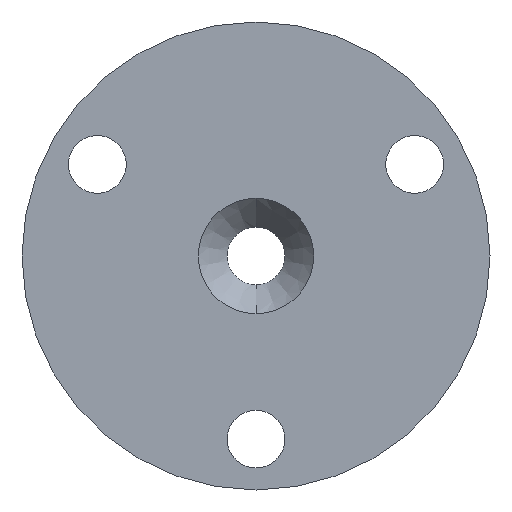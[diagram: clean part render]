
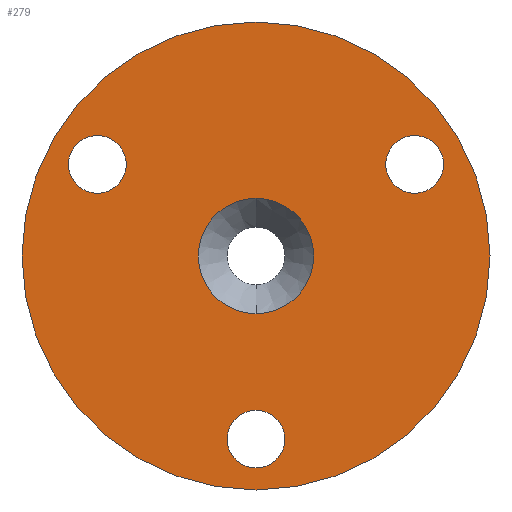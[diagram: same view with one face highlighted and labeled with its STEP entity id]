
A CAD part, front view. The second image highlights one B-rep face of the part: STEP entity #279.
In plain terms, the highlighted planar face has unit normal (0, -1, 0).
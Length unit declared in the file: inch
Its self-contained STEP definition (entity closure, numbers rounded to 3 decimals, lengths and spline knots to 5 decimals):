
#10 = EDGE_CURVE ( 'NONE', #251, #199, #535, .T. ) ;
#11 = EDGE_LOOP ( 'NONE', ( #274, #467 ) ) ;
#20 = DIRECTION ( 'NONE',  ( 0., 0., -1. ) ) ;
#26 = FACE_BOUND ( 'NONE', #11, .T. ) ;
#28 = PLANE ( 'NONE',  #480 ) ;
#36 = DIRECTION ( 'NONE',  ( 0., 0., 1. ) ) ;
#41 = CIRCLE ( 'NONE', #497, 0.133 ) ;
#62 = EDGE_CURVE ( 'NONE', #104, #236, #472, .T. ) ;
#66 = CIRCLE ( 'NONE', #360, 0.133 ) ;
#69 = CIRCLE ( 'NONE', #145, 0.2655 ) ;
#72 = CARTESIAN_POINT ( 'NONE',  ( 0.73071, -0.125, 0.28887 ) ) ;
#73 = EDGE_LOOP ( 'NONE', ( #340, #424 ) ) ;
#79 = EDGE_CURVE ( 'NONE', #309, #557, #461, .T. ) ;
#99 = CARTESIAN_POINT ( 'NONE',  ( -0.73071, -0.125, 0.42187 ) ) ;
#101 = EDGE_LOOP ( 'NONE', ( #495, #365 ) ) ;
#104 = VERTEX_POINT ( 'NONE', #271 ) ;
#113 = CARTESIAN_POINT ( 'NONE',  ( 0., -0.125, 0. ) ) ;
#125 = DIRECTION ( 'NONE',  ( 0., -1., 0. ) ) ;
#135 = EDGE_LOOP ( 'NONE', ( #558, #314 ) ) ;
#143 = DIRECTION ( 'NONE',  ( 0., 0., 1. ) ) ;
#145 = AXIS2_PLACEMENT_3D ( 'NONE', #567, #284, #20 ) ;
#150 = VERTEX_POINT ( 'NONE', #362 ) ;
#156 = CARTESIAN_POINT ( 'NONE',  ( 0.73071, -0.125, 0.42187 ) ) ;
#160 = CARTESIAN_POINT ( 'NONE',  ( 0., -0.125, -0.71075 ) ) ;
#161 = FACE_BOUND ( 'NONE', #135, .T. ) ;
#163 = DIRECTION ( 'NONE',  ( 0., 0., -1. ) ) ;
#169 = EDGE_CURVE ( 'NONE', #233, #333, #304, .T. ) ;
#171 = CARTESIAN_POINT ( 'NONE',  ( 0., -0.125, 0. ) ) ;
#177 = AXIS2_PLACEMENT_3D ( 'NONE', #156, #476, #202 ) ;
#186 = EDGE_CURVE ( 'NONE', #389, #150, #69, .T. ) ;
#187 = CARTESIAN_POINT ( 'NONE',  ( 0., -0.125, 0. ) ) ;
#199 = VERTEX_POINT ( 'NONE', #160 ) ;
#202 = DIRECTION ( 'NONE',  ( 0., 0., 1. ) ) ;
#212 = DIRECTION ( 'NONE',  ( 0., 1., 0. ) ) ;
#213 = ORIENTED_EDGE ( 'NONE', *, *, #226, .F. ) ;
#226 = EDGE_CURVE ( 'NONE', #236, #104, #540, .T. ) ;
#228 = DIRECTION ( 'NONE',  ( 0., -1., 0. ) ) ;
#231 = DIRECTION ( 'NONE',  ( 0., 0., -1. ) ) ;
#232 = AXIS2_PLACEMENT_3D ( 'NONE', #113, #430, #163 ) ;
#233 = VERTEX_POINT ( 'NONE', #72 ) ;
#236 = VERTEX_POINT ( 'NONE', #481 ) ;
#246 = FACE_BOUND ( 'NONE', #101, .T. ) ;
#248 = CARTESIAN_POINT ( 'NONE',  ( 0., -0.125, -0.97675 ) ) ;
#250 = CARTESIAN_POINT ( 'NONE',  ( -0.73071, -0.125, 0.42187 ) ) ;
#251 = VERTEX_POINT ( 'NONE', #248 ) ;
#255 = EDGE_CURVE ( 'NONE', #557, #309, #275, .T. ) ;
#271 = CARTESIAN_POINT ( 'NONE',  ( 0., -0.125, 1.07813 ) ) ;
#274 = ORIENTED_EDGE ( 'NONE', *, *, #255, .F. ) ;
#275 = CIRCLE ( 'NONE', #376, 0.133 ) ;
#279 = ADVANCED_FACE ( 'NONE', ( #363, #161, #26, #499, #246 ), #28, .F. ) ;
#284 = DIRECTION ( 'NONE',  ( 0., -1., 0. ) ) ;
#293 = DIRECTION ( 'NONE',  ( 0., 0., 1. ) ) ;
#296 = CARTESIAN_POINT ( 'NONE',  ( -0.73071, -0.125, 0.28887 ) ) ;
#297 = DIRECTION ( 'NONE',  ( 0., -1., 0. ) ) ;
#304 = CIRCLE ( 'NONE', #177, 0.133 ) ;
#308 = EDGE_CURVE ( 'NONE', #150, #389, #482, .T. ) ;
#309 = VERTEX_POINT ( 'NONE', #296 ) ;
#314 = ORIENTED_EDGE ( 'NONE', *, *, #169, .F. ) ;
#333 = VERTEX_POINT ( 'NONE', #373 ) ;
#340 = ORIENTED_EDGE ( 'NONE', *, *, #577, .F. ) ;
#341 = ORIENTED_EDGE ( 'NONE', *, *, #62, .F. ) ;
#358 = AXIS2_PLACEMENT_3D ( 'NONE', #502, #228, #548 ) ;
#360 = AXIS2_PLACEMENT_3D ( 'NONE', #581, #297, #36 ) ;
#362 = CARTESIAN_POINT ( 'NONE',  ( 0., -0.125, 0.2655 ) ) ;
#363 = FACE_OUTER_BOUND ( 'NONE', #428, .T. ) ;
#365 = ORIENTED_EDGE ( 'NONE', *, *, #308, .F. ) ;
#373 = CARTESIAN_POINT ( 'NONE',  ( 0.73071, -0.125, 0.55487 ) ) ;
#376 = AXIS2_PLACEMENT_3D ( 'NONE', #250, #575, #293 ) ;
#388 = CARTESIAN_POINT ( 'NONE',  ( -0.73071, -0.125, 0.55487 ) ) ;
#389 = VERTEX_POINT ( 'NONE', #526 ) ;
#391 = CARTESIAN_POINT ( 'NONE',  ( 0., -0.125, -0.84375 ) ) ;
#407 = DIRECTION ( 'NONE',  ( 0., -1., 0. ) ) ;
#411 = DIRECTION ( 'NONE',  ( 0., 0., -1. ) ) ;
#423 = AXIS2_PLACEMENT_3D ( 'NONE', #187, #505, #231 ) ;
#424 = ORIENTED_EDGE ( 'NONE', *, *, #10, .F. ) ;
#428 = EDGE_LOOP ( 'NONE', ( #213, #341 ) ) ;
#430 = DIRECTION ( 'NONE',  ( 0., 1., 0. ) ) ;
#436 = CARTESIAN_POINT ( 'NONE',  ( 0., -0.125, 0. ) ) ;
#446 = DIRECTION ( 'NONE',  ( 0., 0., 1. ) ) ;
#449 = AXIS2_PLACEMENT_3D ( 'NONE', #171, #491, #411 ) ;
#461 = CIRCLE ( 'NONE', #554, 0.133 ) ;
#467 = ORIENTED_EDGE ( 'NONE', *, *, #79, .F. ) ;
#471 = EDGE_CURVE ( 'NONE', #333, #233, #66, .T. ) ;
#472 = CIRCLE ( 'NONE', #423, 1.07813 ) ;
#476 = DIRECTION ( 'NONE',  ( 0., -1., 0. ) ) ;
#480 = AXIS2_PLACEMENT_3D ( 'NONE', #436, #212, #532 ) ;
#481 = CARTESIAN_POINT ( 'NONE',  ( 0., -0.125, -1.07813 ) ) ;
#482 = CIRCLE ( 'NONE', #449, 0.2655 ) ;
#491 = DIRECTION ( 'NONE',  ( 0., -1., 0. ) ) ;
#495 = ORIENTED_EDGE ( 'NONE', *, *, #186, .F. ) ;
#497 = AXIS2_PLACEMENT_3D ( 'NONE', #391, #125, #446 ) ;
#499 = FACE_BOUND ( 'NONE', #73, .T. ) ;
#502 = CARTESIAN_POINT ( 'NONE',  ( 0., -0.125, -0.84375 ) ) ;
#505 = DIRECTION ( 'NONE',  ( 0., 1., 0. ) ) ;
#526 = CARTESIAN_POINT ( 'NONE',  ( 0., -0.125, -0.2655 ) ) ;
#532 = DIRECTION ( 'NONE',  ( 0., 0., 1. ) ) ;
#535 = CIRCLE ( 'NONE', #358, 0.133 ) ;
#540 = CIRCLE ( 'NONE', #232, 1.07813 ) ;
#548 = DIRECTION ( 'NONE',  ( 0., 0., 1. ) ) ;
#554 = AXIS2_PLACEMENT_3D ( 'NONE', #99, #407, #143 ) ;
#557 = VERTEX_POINT ( 'NONE', #388 ) ;
#558 = ORIENTED_EDGE ( 'NONE', *, *, #471, .F. ) ;
#567 = CARTESIAN_POINT ( 'NONE',  ( 0., -0.125, 0. ) ) ;
#575 = DIRECTION ( 'NONE',  ( 0., -1., 0. ) ) ;
#577 = EDGE_CURVE ( 'NONE', #199, #251, #41, .T. ) ;
#581 = CARTESIAN_POINT ( 'NONE',  ( 0.73071, -0.125, 0.42187 ) ) ;
